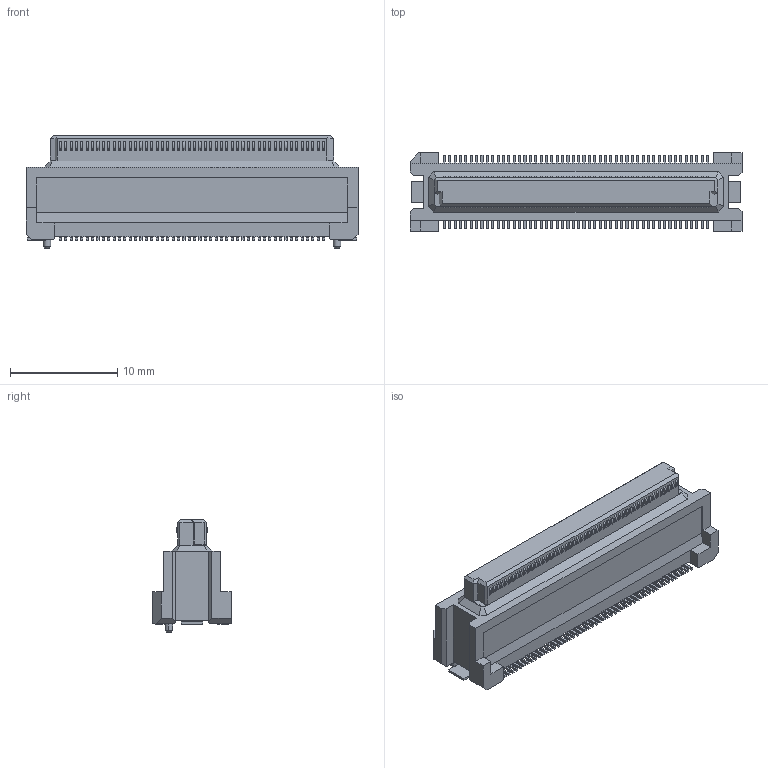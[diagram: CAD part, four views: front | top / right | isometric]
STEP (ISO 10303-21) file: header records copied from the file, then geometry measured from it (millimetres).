
FILE_DESCRIPTION(('Creo Elements/Direct Modeling STEP Export'),'2;1');
FILE_NAME('DY11-100FS-1.stp','2017-11-28T11:26:35',(''),(''),'Creo Elements/Direct Modeling STEP processor for AP214 (Solid Model)','Creo Elements/Direct Modeling 19.0F 14-Feb-2017 (C) Parametric Technology GmbH','');
FILE_SCHEMA(('AUTOMOTIVE_DESIGN { 1 0 10303 214 1 1 1 1 }'));
Products named in the file (2): DY11-100FS-1
Assembly tree (1 placements, depth 2):
  DY11-100FS-1
    DY11-100FS-1
Bounding box: 30.9 x 7.3 x 10.5 mm (x, y, z)
Volume: 1208.3 mm3; surface area: 1201.4 mm2
Topology: 1 solids, 1 shells, 2358 faces, 6709 edges, 4458 vertices
Faces by surface type: plane 1738, cylinder 608, bspline 8, cone 4
Entity records: 74163 total; most frequent: CARTESIAN_POINT 14082, ORIENTED_EDGE 13418, DIRECTION 11563, EDGE_CURVE 6709, VECTOR 5005, LINE 5005, VERTEX_POINT 4458, AXIS2_PLACEMENT_3D 3279
